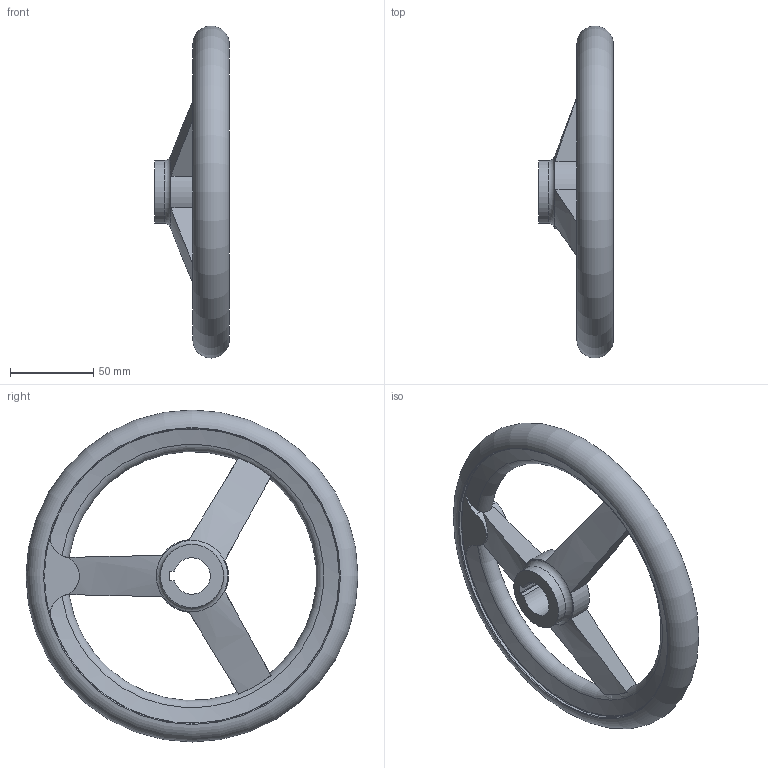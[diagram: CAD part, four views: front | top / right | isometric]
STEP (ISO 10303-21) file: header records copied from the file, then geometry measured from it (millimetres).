
FILE_DESCRIPTION( ( 'STEP AP203' ), '1' );
FILE_NAME( 'C:/Temp/Ganter_Step_05_03_2020/data/1_3/din_950/din_950_k/din_950_k_a/Handwheel DIN 950-AL-200-K22-A.stp', '2020-03-05T10:30:38', ( 'License CC BY-ND 4.0' ), ( 'CADENAS' ), ' ', 'PARTsolutions', ' ' );
FILE_SCHEMA( ( 'CONFIG_CONTROL_DESIGN' ) );
Length unit declared in the file: millimetre
Products named in the file (1): _Handwheel DIN 950-AL-200-K22-A
Bounding box: 45 x 200 x 200 mm (x, y, z)
Volume: 272560.6 mm3; surface area: 59159.4 mm2
Topology: 1 solids, 1 shells, 47 faces, 137 edges, 88 vertices
Faces by surface type: cylinder 16, torus 14, plane 13, cone 4
Full cylindrical faces by diameter (mm): 38 x2, 178 x2
Entity records: 1927 total; most frequent: CARTESIAN_POINT 756, ORIENTED_EDGE 240, DIRECTION 214, EDGE_CURVE 120, AXIS2_PLACEMENT_3D 94, VERTEX_POINT 85, EDGE_LOOP 64, FACE_OUTER_BOUND 58
